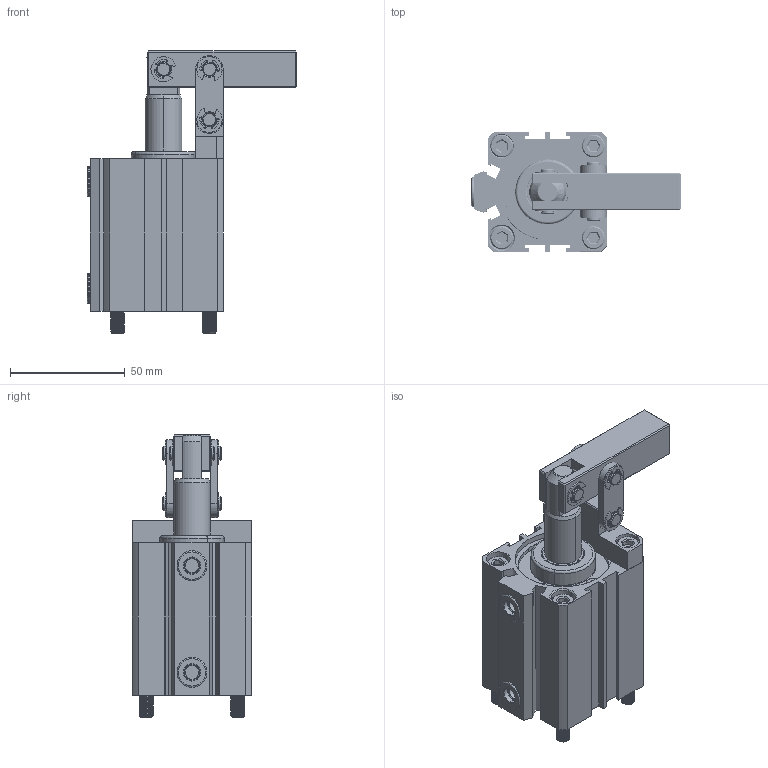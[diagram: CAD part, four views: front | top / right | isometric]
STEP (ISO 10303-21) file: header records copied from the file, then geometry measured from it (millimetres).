
FILE_DESCRIPTION(('FreeCAD Model'),'2;1');
FILE_NAME('Open CASCADE Shape Model','2021-08-17T16:40:15',('Author'),( ''),'Open CASCADE STEP processor 7.4','FreeCAD','Unknown');
FILE_SCHEMA(('AUTOMOTIVE_DESIGN { 1 0 10303 214 1 1 1 1 }'));
Length unit declared in the file: millimetre
Products named in the file (17): PLP-MS40; SOLID001; SOLID002; SOLID004; SOLID005; SOLID007; SOLID008; SOLID010; SOLID011; SOLID012; SOLID014; SOLID017; SOLID019; SOLID023; SOLID024; SOLID025; SOLID026
Assembly tree (27 placements, depth 2):
  PLP-MS40
    SOLID001  x2
    SOLID002  x6
    SOLID004  x2
    SOLID005
    SOLID007
    SOLID008
    SOLID010  x2
    SOLID011  x2
    SOLID012  x2
    SOLID014
    SOLID017
    SOLID019
    SOLID023  x2
    SOLID024
    SOLID025
    SOLID026
Bounding box: 91.2 x 52 x 123 mm (x, y, z)
Volume: 158104.9 mm3; surface area: 85438.9 mm2
Topology: 27 solids, 27 shells, 1312 faces, 3353 edges, 2158 vertices
Faces by surface type: cylinder 766, plane 324, cone 106, torus 96, bspline 20
Entity records: 87994 total; most frequent: CARTESIAN_POINT 46995, DIRECTION 7292, ORIENTED_EDGE 4210, PCURVE 4210, DEFINITIONAL_REPRESENTATION 4210, LINE 4072, VECTOR 4072, EDGE_CURVE 2105
